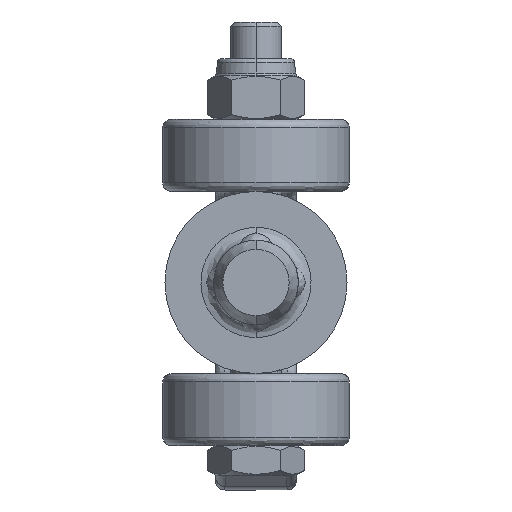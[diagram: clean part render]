
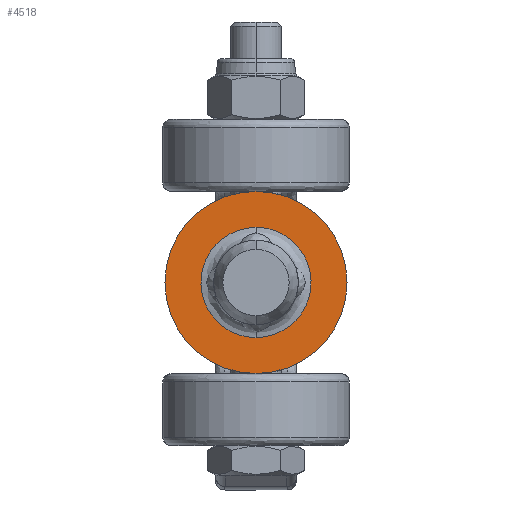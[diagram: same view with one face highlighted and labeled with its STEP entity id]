
A CAD part, front view. The second image highlights one B-rep face of the part: STEP entity #4518.
In plain terms, the highlighted planar face has unit normal (0, -1, 0) as drawn and (-1, 0, 0) by its records, which use the part's own axes.
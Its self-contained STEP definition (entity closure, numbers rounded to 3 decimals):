
#112 = ORIENTED_EDGE ( 'NONE', *, *, #4842, .F. ) ;
#321 = FACE_BOUND ( 'NONE', #3519, .T. ) ;
#687 = CARTESIAN_POINT ( 'NONE',  ( 0., 0., 6.5 ) ) ;
#1005 = CARTESIAN_POINT ( 'NONE',  ( 0., 0., 0. ) ) ;
#1338 = CARTESIAN_POINT ( 'NONE',  ( 0., 0., 6.5 ) ) ;
#1342 = VERTEX_POINT ( 'NONE', #7047 ) ;
#1349 =( BOUNDED_CURVE ( )  B_SPLINE_CURVE ( 3, ( #5747, #7142, #3358, #8736 ),
 .UNSPECIFIED., .F., .T. ) 
 B_SPLINE_CURVE_WITH_KNOTS ( ( 4, 4 ),
 ( 0., 0.5 ),
 .UNSPECIFIED. ) 
 CURVE ( )  GEOMETRIC_REPRESENTATION_ITEM ( )  RATIONAL_B_SPLINE_CURVE ( ( 1., 0.333, 0.333, 1. ) ) 
 REPRESENTATION_ITEM ( '' )  );
#1445 = CARTESIAN_POINT ( 'NONE',  ( 0., 0., 10.75 ) ) ;
#1963 = CARTESIAN_POINT ( 'NONE',  ( 0., 0., -6.5 ) ) ;
#2254 = CARTESIAN_POINT ( 'NONE',  ( 0., 13., -6.5 ) ) ;
#2437 = CARTESIAN_POINT ( 'NONE',  ( 0., 6.5, 0. ) ) ;
#3028 = AXIS2_PLACEMENT_3D ( 'NONE', #1005, #3219, #3263 ) ;
#3219 = DIRECTION ( 'NONE',  ( 1., 0., 0. ) ) ;
#3263 = DIRECTION ( 'NONE',  ( 0., 0., 1. ) ) ;
#3290 = EDGE_CURVE ( 'NONE', #1342, #6718, #3982, .T. ) ;
#3358 = CARTESIAN_POINT ( 'NONE',  ( 0., -13., 6.5 ) ) ;
#3510 = CARTESIAN_POINT ( 'NONE',  ( 0., 0., 0. ) ) ;
#3519 = EDGE_LOOP ( 'NONE', ( #5817, #8578 ) ) ;
#3576 = EDGE_CURVE ( 'NONE', #3895, #4906, #1349, .T. ) ;
#3586 = CARTESIAN_POINT ( 'NONE',  ( 0., 13., 6.5 ) ) ;
#3696 = CARTESIAN_POINT ( 'NONE',  ( 0., 0., -6.5 ) ) ;
#3895 = VERTEX_POINT ( 'NONE', #1963 ) ;
#3982 = CIRCLE ( 'NONE', #9546, 10.75 ) ;
#3985 = DIRECTION ( 'NONE',  ( 0., 0., -1. ) ) ;
#4077 = FACE_OUTER_BOUND ( 'NONE', #4894, .T. ) ;
#4518 = ADVANCED_FACE ( 'NONE', ( #321, #4077 ), #4722, .F. ) ;
#4722 = PLANE ( 'NONE',  #8115 ) ;
#4768 = DIRECTION ( 'NONE',  ( 1., 0., 0. ) ) ;
#4842 = EDGE_CURVE ( 'NONE', #6718, #1342, #6369, .T. ) ;
#4894 = EDGE_LOOP ( 'NONE', ( #112, #6611 ) ) ;
#4906 = VERTEX_POINT ( 'NONE', #1338 ) ;
#5297 = EDGE_CURVE ( 'NONE', #4906, #3895, #5411, .T. ) ;
#5411 =( BOUNDED_CURVE ( )  B_SPLINE_CURVE ( 3, ( #687, #3586, #2254, #3696 ),
 .UNSPECIFIED., .F., .T. ) 
 B_SPLINE_CURVE_WITH_KNOTS ( ( 4, 4 ),
 ( 0.5, 1. ),
 .UNSPECIFIED. ) 
 CURVE ( )  GEOMETRIC_REPRESENTATION_ITEM ( )  RATIONAL_B_SPLINE_CURVE ( ( 1., 0.333, 0.333, 1. ) ) 
 REPRESENTATION_ITEM ( '' )  );
#5747 = CARTESIAN_POINT ( 'NONE',  ( 0., 0., -6.5 ) ) ;
#5817 = ORIENTED_EDGE ( 'NONE', *, *, #3576, .F. ) ;
#6369 = CIRCLE ( 'NONE', #3028, 10.75 ) ;
#6611 = ORIENTED_EDGE ( 'NONE', *, *, #3290, .F. ) ;
#6718 = VERTEX_POINT ( 'NONE', #1445 ) ;
#7047 = CARTESIAN_POINT ( 'NONE',  ( 0., 0., -10.75 ) ) ;
#7142 = CARTESIAN_POINT ( 'NONE',  ( 0., -13., -6.5 ) ) ;
#7402 = DIRECTION ( 'NONE',  ( 0., 0., 1. ) ) ;
#8115 = AXIS2_PLACEMENT_3D ( 'NONE', #2437, #4768, #3985 ) ;
#8155 = DIRECTION ( 'NONE',  ( 1., 0., 0. ) ) ;
#8578 = ORIENTED_EDGE ( 'NONE', *, *, #5297, .F. ) ;
#8736 = CARTESIAN_POINT ( 'NONE',  ( 0., 0., 6.5 ) ) ;
#9546 = AXIS2_PLACEMENT_3D ( 'NONE', #3510, #8155, #7402 ) ;
